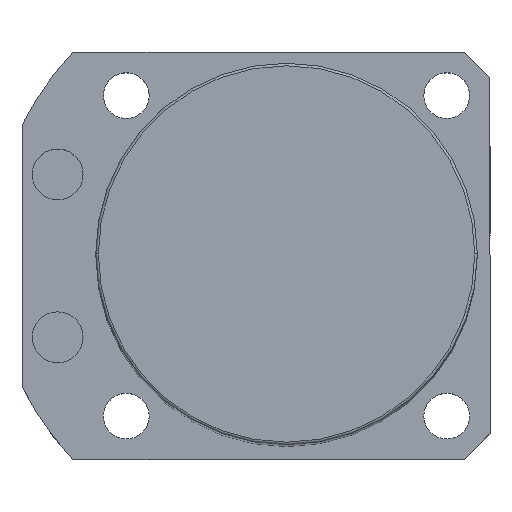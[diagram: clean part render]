
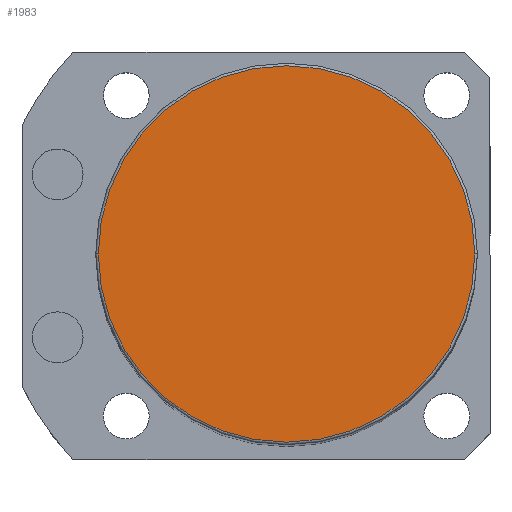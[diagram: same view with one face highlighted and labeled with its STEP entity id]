
A CAD part, top view. The second image highlights one B-rep face of the part: STEP entity #1983.
In plain terms, the highlighted planar face has unit normal (0, 0, 1).
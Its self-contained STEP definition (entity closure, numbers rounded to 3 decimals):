
#337 = DIRECTION ( 'NONE',  ( 1., 0., 0. ) ) ;
#446 = VERTEX_POINT ( 'NONE', #747 ) ;
#643 = ORIENTED_EDGE ( 'NONE', *, *, #2082, .T. ) ;
#747 = CARTESIAN_POINT ( 'NONE',  ( 37., 0., 230.5 ) ) ;
#857 = AXIS2_PLACEMENT_3D ( 'NONE', #1955, #1921, #337 ) ;
#900 = EDGE_CURVE ( 'NONE', #1101, #446, #2335, .T. ) ;
#970 = DIRECTION ( 'NONE',  ( 1., 0., 0. ) ) ;
#1040 = ORIENTED_EDGE ( 'NONE', *, *, #900, .T. ) ;
#1101 = VERTEX_POINT ( 'NONE', #1752 ) ;
#1323 = CARTESIAN_POINT ( 'NONE',  ( 0., 0., 230.5 ) ) ;
#1372 = FACE_OUTER_BOUND ( 'NONE', #1409, .T. ) ;
#1409 = EDGE_LOOP ( 'NONE', ( #643, #1040 ) ) ;
#1612 = AXIS2_PLACEMENT_3D ( 'NONE', #1323, #2108, #2493 ) ;
#1642 = CIRCLE ( 'NONE', #1720, 37. ) ;
#1720 = AXIS2_PLACEMENT_3D ( 'NONE', #1775, #2144, #970 ) ;
#1752 = CARTESIAN_POINT ( 'NONE',  ( -37., 0., 230.5 ) ) ;
#1775 = CARTESIAN_POINT ( 'NONE',  ( 0., 0., 230.5 ) ) ;
#1921 = DIRECTION ( 'NONE',  ( 0., 0., 1. ) ) ;
#1955 = CARTESIAN_POINT ( 'NONE',  ( 0., 0., 230.5 ) ) ;
#1983 = ADVANCED_FACE ( 'NONE', ( #1372 ), #2483, .T. ) ;
#2082 = EDGE_CURVE ( 'NONE', #446, #1101, #1642, .T. ) ;
#2108 = DIRECTION ( 'NONE',  ( 0., 0., 1. ) ) ;
#2144 = DIRECTION ( 'NONE',  ( 0., 0., 1. ) ) ;
#2335 = CIRCLE ( 'NONE', #857, 37. ) ;
#2483 = PLANE ( 'NONE',  #1612 ) ;
#2493 = DIRECTION ( 'NONE',  ( 1., 0., 0. ) ) ;
